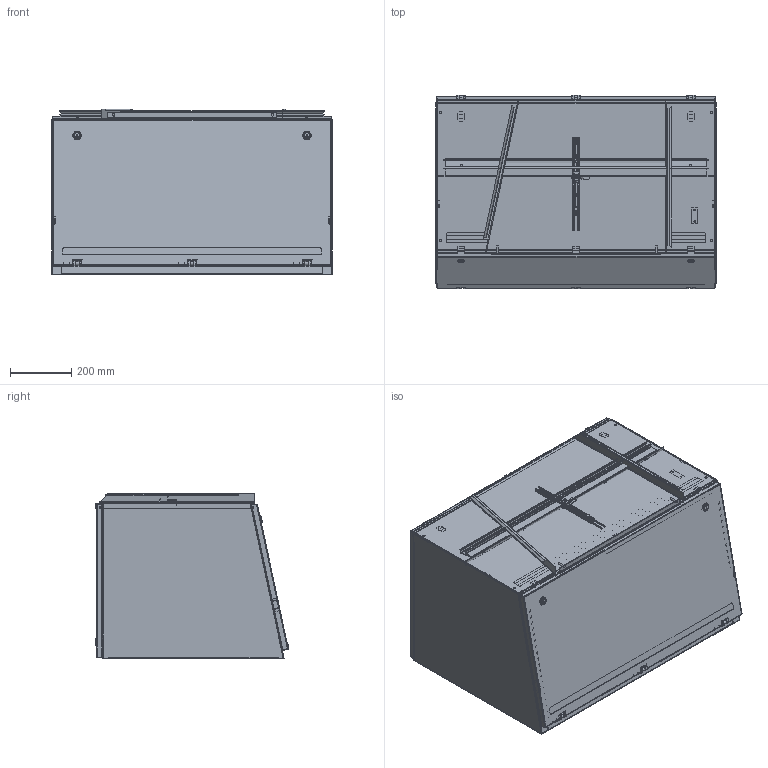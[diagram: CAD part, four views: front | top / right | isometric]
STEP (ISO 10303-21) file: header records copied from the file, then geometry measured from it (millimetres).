
FILE_DESCRIPTION( ( 'Unknown' ), '1' );
FILE_NAME( 'Q:/2000 SERIES/TURRET UNITS/WEB DRAWINGS/STEP/2CST203643.stp', 'Unknown', ( 'Unknown' ), ( 'Unknown' ), 'XStep 1.0', 'Unknown', ' ' );
FILE_SCHEMA( ( 'CONFIG_CONTROL_DESIGN' ) );
Length unit declared in the file: millimetre
Products named in the file (46): Assem1; Assem2; Assem3; Assem4; Assem5; Assem6; Assem7; Assem8; Assem9; Assem10; Assem11; Assem12; 1; 2; 3; 4; 5; 6; 7; 8; 9; 10; 11; 12; 13; 14; 15; 16; 17; 18; 19; 20; 21; 22; 23; 24; 25; 26; 27; 28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
Bounding box: 914.4 x 631.61 x 538.94 mm (x, y, z)
Volume: 15356824.7 mm3; surface area: 16894438.3 mm2
Topology: 157 solids, 157 shells, 3613 faces, 8763 edges, 5586 vertices
Faces by surface type: plane 2385, cylinder 947, bspline 222, cone 32, torus 21, sphere 6
Full cylindrical faces by diameter (mm): 3.175 x12, 4.763 x15, 4.826 x6, 5 x14, 5.537 x10, 5.969 x8, 6 x6, 6.096 x8, 6.299 x4, 6.35 x48, 7.137 x19, 7.925 x4, 7.938 x32, 8.331 x4, 9.804 x5, 9.83 x12, 9.931 x7, 10.312 x4, 11.1 x4, 12.7 x18, 12.751 x4, 13.335 x6, 15.875 x6, 16.002 x6, 19.5 x6, 19.939 x6, 25.4 x6
Entity records: 29506 total; most frequent: CARTESIAN_POINT 7126, DIRECTION 4098, ORIENTED_EDGE 4096, EDGE_CURVE 2048, LINE 1456, VECTOR 1456, VERTEX_POINT 1337, AXIS2_PLACEMENT_3D 1321
